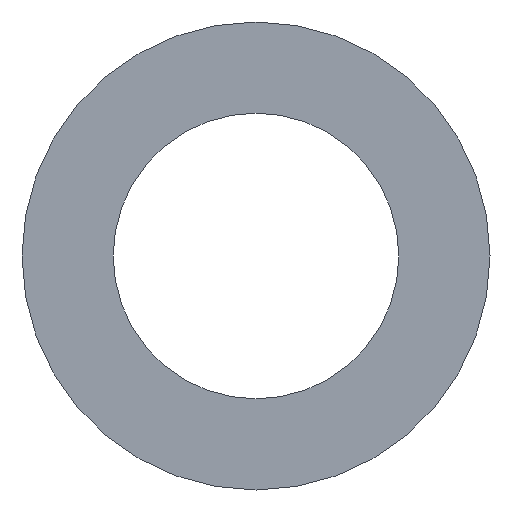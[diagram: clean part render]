
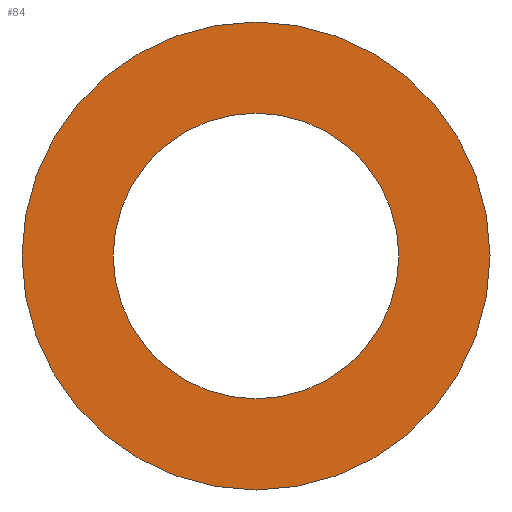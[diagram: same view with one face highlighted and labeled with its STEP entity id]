
A CAD part, left-side view. The second image highlights one B-rep face of the part: STEP entity #84.
In plain terms, the highlighted planar face has unit normal (-1, 0, 0).
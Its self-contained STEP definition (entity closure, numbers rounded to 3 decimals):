
#84 = ADVANCED_FACE( '', ( #107, #108 ), #109, .T. );
#107 = FACE_BOUND( '', #132, .T. );
#108 = FACE_OUTER_BOUND( '', #133, .T. );
#109 = PLANE( '', #134 );
#132 = EDGE_LOOP( '', ( #200, #201 ) );
#133 = EDGE_LOOP( '', ( #202, #203 ) );
#134 = AXIS2_PLACEMENT_3D( '', #204, #205, #206 );
#200 = ORIENTED_EDGE( '', *, *, #235, .F. );
#201 = ORIENTED_EDGE( '', *, *, #217, .F. );
#202 = ORIENTED_EDGE( '', *, *, #221, .T. );
#203 = ORIENTED_EDGE( '', *, *, #234, .T. );
#204 = CARTESIAN_POINT( '', ( -115., 107.9, 0. ) );
#205 = DIRECTION( '', ( -1., 0., 0. ) );
#206 = DIRECTION( '', ( 0., 1., 0. ) );
#217 = EDGE_CURVE( '', #241, #237, #243, .T. );
#221 = EDGE_CURVE( '', #245, #249, #251, .T. );
#234 = EDGE_CURVE( '', #249, #245, #270, .T. );
#235 = EDGE_CURVE( '', #237, #241, #271, .T. );
#237 = VERTEX_POINT( '', #273 );
#241 = VERTEX_POINT( '', #278 );
#243 = CIRCLE( '', #281, 81.8 );
#245 = VERTEX_POINT( '', #283 );
#249 = VERTEX_POINT( '', #288 );
#251 = CIRCLE( '', #291, 134. );
#270 = CIRCLE( '', #314, 134. );
#271 = CIRCLE( '', #315, 81.8 );
#273 = CARTESIAN_POINT( '', ( -115., 81.8, 0. ) );
#278 = CARTESIAN_POINT( '', ( -115., -81.8, 0. ) );
#281 = AXIS2_PLACEMENT_3D( '', #321, #322, #323 );
#283 = CARTESIAN_POINT( '', ( -115., 134., 0. ) );
#288 = CARTESIAN_POINT( '', ( -115., -134., 0. ) );
#291 = AXIS2_PLACEMENT_3D( '', #329, #330, #331 );
#314 = AXIS2_PLACEMENT_3D( '', #360, #361, #362 );
#315 = AXIS2_PLACEMENT_3D( '', #363, #364, #365 );
#321 = CARTESIAN_POINT( '', ( -115., 0., 0. ) );
#322 = DIRECTION( '', ( -1., 0., 0. ) );
#323 = DIRECTION( '', ( 0., 1., 0. ) );
#329 = CARTESIAN_POINT( '', ( -115., 0., 0. ) );
#330 = DIRECTION( '', ( -1., 0., 0. ) );
#331 = DIRECTION( '', ( 0., 1., 0. ) );
#360 = CARTESIAN_POINT( '', ( -115., 0., 0. ) );
#361 = DIRECTION( '', ( -1., 0., 0. ) );
#362 = DIRECTION( '', ( 0., 1., 0. ) );
#363 = CARTESIAN_POINT( '', ( -115., 0., 0. ) );
#364 = DIRECTION( '', ( -1., 0., 0. ) );
#365 = DIRECTION( '', ( 0., 1., 0. ) );
